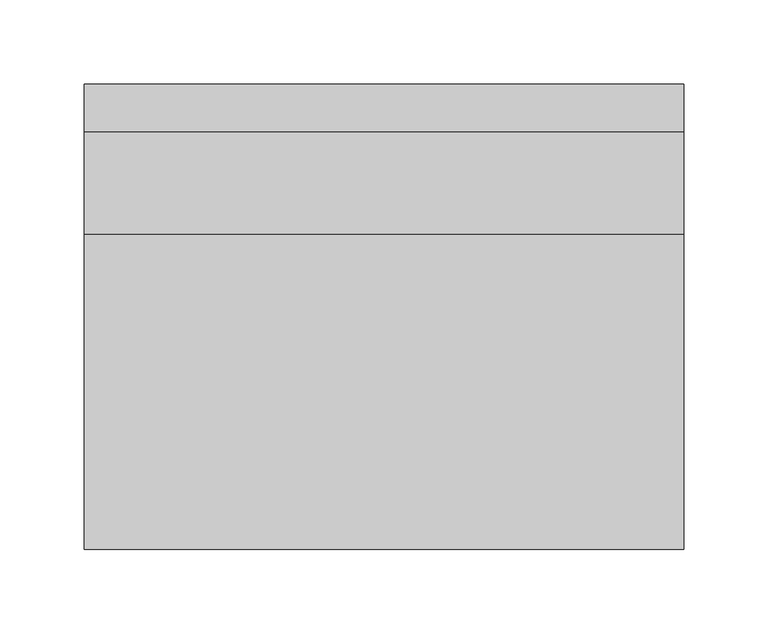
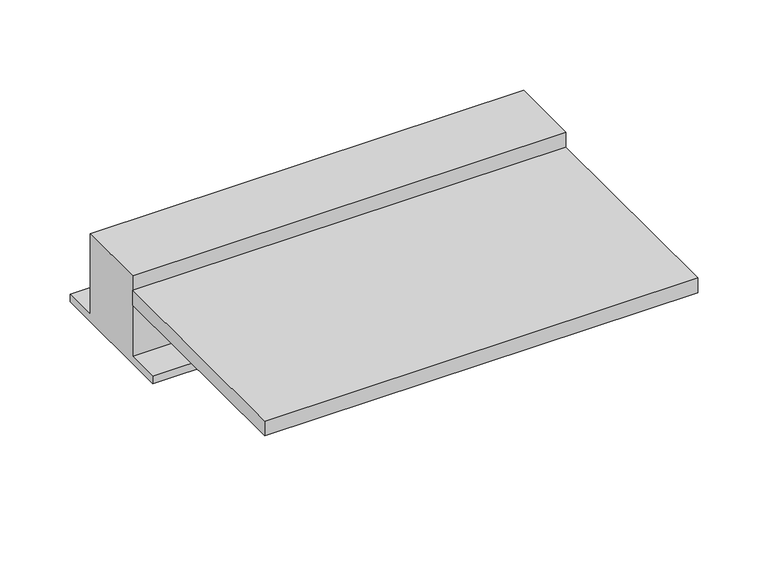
"""IFC4 building model written with IfcOpenShell, lengths in millimetres: light fixture geometry, OD74 (F) Exit Sign - Surface_WallMtd-Parallel_USACE : Exit Sign_120V-Hazard Rated (Wall Mt)."""

import ifcopenshell
import ifcopenshell.guid

model = None  # the IFC model being written
_history = None  # IfcOwnerHistory: only IFC2X3 demands one
_inside = {}  # id of a spatial element -> (the spatial element, [elements in it])
_under = {}  # id of a project, library or spatial element -> (it, [spatial elements below it])
_declared = {}  # id of a project -> (the project, [libraries it declares])
_typed = {}  # id of a type object -> (the type object, [elements of that type])
_made_of = {}  # id of a material, layer set ... -> (it, [elements and type objects made of it])


def new_model(schema):
    """Start an empty IFC model of exactly this schema.

    Asked for "IFC4X3", IfcOpenShell would pick the latest addendum, in which some entities
    have other attributes; the version numbers below select the first issue.
    IFC2X3 requires an IfcOwnerHistory on every rooted entity: one is made here for all.
    """
    global model, _history
    if schema == "IFC4X3":
        model = ifcopenshell.file(schema_version=(4, 3, 0, 0))
    else:
        model = ifcopenshell.file(schema=schema)
    _inside.clear()
    _under.clear()
    _declared.clear()
    _typed.clear()
    _made_of.clear()
    _history = None
    if model.schema == "IFC2X3":
        org = make("IfcOrganization", Name="unknown")
        user = make(
            "IfcPersonAndOrganization",
            ThePerson=make("IfcPerson", FamilyName="unknown"),
            TheOrganization=org,
        )
        app = make(
            "IfcApplication",
            ApplicationDeveloper=org,
            Version="unknown",
            ApplicationFullName="unknown",
            ApplicationIdentifier="unknown",
        )
        _history = make(
            "IfcOwnerHistory",
            OwningUser=user,
            OwningApplication=app,
            ChangeAction="ADDED",
            CreationDate=0,
        )
    return model


def make(cls, **values):
    """One entity of the class cls with the attributes given. An attribute that is None is left unset."""
    return model.create_entity(
        cls, **{name: value for name, value in values.items() if value is not None}
    )


def rooted(cls, **values):
    """An entity with a GlobalId (a new one), such as an element, a storey or a relation."""
    return make(cls, GlobalId=ifcopenshell.guid.new(), OwnerHistory=_history, **values)


def si_unit(unit_type, name, prefix=None):
    """IfcSIUnit, for example si_unit("LENGTHUNIT", "METRE", prefix="MILLI")."""
    return make("IfcSIUnit", UnitType=unit_type, Prefix=prefix, Name=name)


def assignment(units):
    """IfcUnitAssignment: the units of a project."""
    return None if units is None else make("IfcUnitAssignment", Units=units)


def point(xyz):
    """IfcCartesianPoint."""
    return None if xyz is None else make("IfcCartesianPoint", Coordinates=xyz)


def direction(xyz):
    """IfcDirection."""
    return None if xyz is None else make("IfcDirection", DirectionRatios=xyz)


def frame(location, z_axis=None, x_axis=None):
    """IfcAxis2Placement3D, a coordinate frame: its origin and axes. An axis left out is left unset."""
    return make(
        "IfcAxis2Placement3D",
        Location=point(location),
        Axis=direction(z_axis),
        RefDirection=direction(x_axis),
    )


def origin():
    """The frame at (0, 0, 0) with its axes left unset."""
    return frame((0.0, 0.0, 0.0))


def place(relative_to, where):
    """IfcLocalPlacement: puts the frame where relative to a parent placement (None: the world)."""
    return make(
        "IfcLocalPlacement", PlacementRelTo=relative_to, RelativePlacement=where
    )


def context(
    kind, dimensions, precision=None, world=None, true_north=None, identifier=None
):
    """IfcGeometricRepresentationContext, for example the 3D "Model" context."""
    return make(
        "IfcGeometricRepresentationContext",
        ContextIdentifier=identifier,
        ContextType=kind,
        CoordinateSpaceDimension=dimensions,
        Precision=precision,
        WorldCoordinateSystem=world,
        TrueNorth=true_north,
    )


def project(units=None, contexts=None):
    """IfcProject with its units and contexts."""
    return rooted(
        "IfcProject",
        Name="project",
        RepresentationContexts=contexts,
        UnitsInContext=assignment(units),
    )


def spatial(cls, under=None, at=None, **own):
    """A site, building, storey or space (cls), placed at a placement, below another one or the project."""
    s = rooted(cls, ObjectPlacement=at, **own)
    if under is not None:
        _under.setdefault(under.id(), (under, []))[1].append(s)
    return s


def polyline(points):
    """IfcPolyline through the points."""
    return make("IfcPolyline", Points=[point(p) for p in points])


def outline(outer, holes=None, kind="AREA"):
    """IfcArbitraryClosedProfileDef: a profile drawn as a closed curve; with holes, ...WithVoids."""
    if holes is None:
        return make("IfcArbitraryClosedProfileDef", ProfileType=kind, OuterCurve=outer)
    return make(
        "IfcArbitraryProfileDefWithVoids",
        ProfileType=kind,
        OuterCurve=outer,
        InnerCurves=holes,
    )


def extrude(swept, where, along, depth):
    """IfcExtrudedAreaSolid: the profile swept, set in the frame where, extruded along a direction by depth."""
    return make(
        "IfcExtrudedAreaSolid",
        SweptArea=swept,
        Position=where,
        ExtrudedDirection=direction(along),
        Depth=depth,
    )


def shape(context_of_items, identifier, shape_type, items):
    """IfcShapeRepresentation: the items that make up one representation, for example the "Body"."""
    return make(
        "IfcShapeRepresentation",
        ContextOfItems=context_of_items,
        RepresentationIdentifier=identifier,
        RepresentationType=shape_type,
        Items=items,
    )


def source(mapping_origin, context_of_items, identifier, shape_type, items):
    """IfcRepresentationMap: a shape defined once, which mapped items show again and again."""
    return make(
        "IfcRepresentationMap",
        MappingOrigin=mapping_origin,
        MappedRepresentation=shape(context_of_items, identifier, shape_type, items),
    )


def transform(
    local_origin,
    x_axis=None,
    y_axis=None,
    z_axis=None,
    scale=None,
    scale2=None,
    scale3=None,
    uniform=True,
):
    """IfcCartesianTransformationOperator3D, or its non-uniform kind. x_axis, y_axis, z_axis: its Axis1, 2, 3."""
    if uniform:
        return make(
            "IfcCartesianTransformationOperator3D",
            Axis1=direction(x_axis),
            Axis2=direction(y_axis),
            LocalOrigin=point(local_origin),
            Scale=scale,
            Axis3=direction(z_axis),
        )
    return make(
        "IfcCartesianTransformationOperator3DnonUniform",
        Axis1=direction(x_axis),
        Axis2=direction(y_axis),
        LocalOrigin=point(local_origin),
        Scale=scale,
        Axis3=direction(z_axis),
        Scale2=scale2,
        Scale3=scale3,
    )


def mapped(mapping_source, mapping_target):
    """IfcMappedItem: shows the shape of a source again, moved by a transform."""
    return make(
        "IfcMappedItem", MappingSource=mapping_source, MappingTarget=mapping_target
    )


def made_of(thing, what):
    """Note that an element or type object is made of a material, layer set ...; save() writes the relation."""
    if what is not None:
        _made_of.setdefault(what.id(), (what, []))[1].append(thing)
    return thing


def element(
    cls,
    number,
    at=None,
    inside=None,
    cuts=None,
    type_object=None,
    material=None,
    context=None,
    identifier="Body",
    shape_type=None,
    held_by="IfcProductDefinitionShape",
    body=None,
    shapes=None,
    **own,
):
    """One element of the class cls, such as IfcWall. Its Tag is "e" and its number.

    at: its placement. inside: the storey or other place that contains it. cuts: it is an
    opening in that element (IfcRelVoidsElement). A single representation is given by context,
    identifier, shape_type and body (its items); several are given by shapes. held_by: the class
    of the entity that holds the representations. save() writes the other relations.
    """
    e = rooted(cls, Tag="e%d" % number, ObjectPlacement=at, **own)
    if body is not None:
        shapes = [shape(context, identifier, shape_type, body)]
    if shapes is not None:
        e.Representation = make(held_by, Representations=shapes)
    if inside is not None:
        _inside.setdefault(inside.id(), (inside, []))[1].append(e)
    if cuts is not None:
        rooted(
            "IfcRelVoidsElement", RelatingBuildingElement=cuts, RelatedOpeningElement=e
        )
    if type_object is not None:
        _typed.setdefault(type_object.id(), (type_object, []))[1].append(e)
    return made_of(e, material)


def aggregate(whole, parts):
    """IfcRelAggregates: a whole, such as a stair, and the parts it consists of."""
    return rooted("IfcRelAggregates", RelatingObject=whole, RelatedObjects=parts)


def save(model, path):
    """Write the relations noted so far, then the file.

    IfcRelAggregates (storeys below a building ...), IfcRelContainedInSpatialStructure (elements
    in a storey), IfcRelDefinesByType, IfcRelAssociatesMaterial and IfcRelDeclares: one each for
    every whole, place, type object, material and project.
    """
    for whole, parts in _under.values():
        aggregate(whole, parts)
    for where, things in _inside.values():
        rooted(
            "IfcRelContainedInSpatialStructure",
            RelatedElements=things,
            RelatingStructure=where,
        )
    for kind, things in _typed.values():
        rooted("IfcRelDefinesByType", RelatedObjects=things, RelatingType=kind)
    for what, things in _made_of.values():
        rooted("IfcRelAssociatesMaterial", RelatedObjects=things, RelatingMaterial=what)
    for by, libraries in _declared.values():
        rooted("IfcRelDeclares", RelatingContext=by, RelatedDefinitions=libraries)
    model.write(path)


def light_fixture_5bae860f(model_context):
    return source(origin(), model_context, "Body", "SweptSolid", [
        extrude(outline(polyline([(-60.325, -47.625), (-60.325, -73.025), (-111.125, -73.025), (-111.125, -111.125), (-73.025, -111.125), (-73.025, -136.525), (-111.125, -136.525), (-111.125, -174.625), (-60.325, -174.625), (-60.325, -200.025), (-136.525, -200.025), (-136.525, -47.625), (-60.325, -47.625)])), frame((0.0, 0.0, 57.15), z_axis=(0.0, 0.0, 1.0), x_axis=(1.0, 0.0, 0.0)), (0.0, 0.0, 1.0), 1.5875),
        extrude(outline(polyline([(-28.575, -47.625), (-15.875, -85.725), (-3.175, -47.625), (22.225, -47.625), (-3.175, -123.825), (22.225, -200.025), (-3.175, -200.025), (-15.875, -161.925), (-28.575, -200.025), (-53.975, -200.025), (-28.575, -123.825), (-53.975, -47.625), (-28.575, -47.625)])), frame((0.0, 0.0, 57.15), z_axis=(0.0, 0.0, 1.0), x_axis=(1.0, 0.0, 0.0)), (0.0, 0.0, 1.0), 1.5875),
        extrude(outline(polyline([(53.975, -47.625), (53.975, -200.025), (28.575, -200.025), (28.575, -47.625), (53.975, -47.625)])), frame((0.0, 0.0, 57.15), z_axis=(0.0, 0.0, 1.0), x_axis=(1.0, 0.0, 0.0)), (0.0, 0.0, 1.0), 1.5875),
        extrude(outline(polyline([(136.525, -47.625), (136.525, -73.025), (111.125, -73.025), (111.125, -200.025), (85.725, -200.025), (85.725, -73.025), (60.325, -73.025), (60.325, -47.625), (136.525, -47.625)])), frame((0.0, 0.0, 57.15), z_axis=(0.0, 0.0, 1.0), x_axis=(1.0, 0.0, 0.0)), (0.0, 0.0, 1.0), 1.5875),
        extrude(outline(polyline([(177.8, -30.1625), (177.8, -217.4875), (-177.8, -217.4875), (-177.8, -30.1625), (177.8, -30.1625)])), frame((0.0, 0.0, 50.8), z_axis=(0.0, 0.0, 1.0), x_axis=(1.0, 0.0, 0.0)), (0.0, 0.0, 1.0), 12.7),
        extrude(outline(polyline([(30.1625, 76.2), (30.1625, 6.35), (58.7375, 6.35), (58.7375, 0.0), (-58.7375, 0.0), (-58.7375, 6.35), (-30.1625, 6.35), (-30.1625, 76.2), (30.1625, 76.2)])), frame((-177.8, 0.0, 0.0), z_axis=(1.0, 0.0, 0.0), x_axis=(0.0, 1.0, 0.0)), (0.0, 0.0, 1.0), 355.6),
    ])


if __name__ == "__main__":
    model = new_model("IFC4")
    model_context = context("Model", 3, world=origin())
    ifc_project = project(units=[si_unit("LENGTHUNIT", "METRE", prefix="MILLI")], contexts=[model_context])
    site = spatial("IfcSite", under=ifc_project)
    building = spatial("IfcBuilding", under=site)
    placement = place(None, origin())
    light_fixture_shape = light_fixture_5bae860f(model_context)
    element("IfcLightFixture", 1, ObjectType="OD74 (F) Exit Sign - Surface_WallMtd-Parallel_USACE : Exit Sign_120V-Hazard Rated (Wall Mt)", at=placement, inside=building, context=model_context, shape_type="MappedRepresentation", body=[
        mapped(light_fixture_shape, transform((0.0, 0.0, 0.0), x_axis=(1.0, 0.0, 0.0), y_axis=(0.0, 1.0, 0.0), z_axis=(0.0, 0.0, 1.0))),
    ])
    save(model, "model.ifc")
